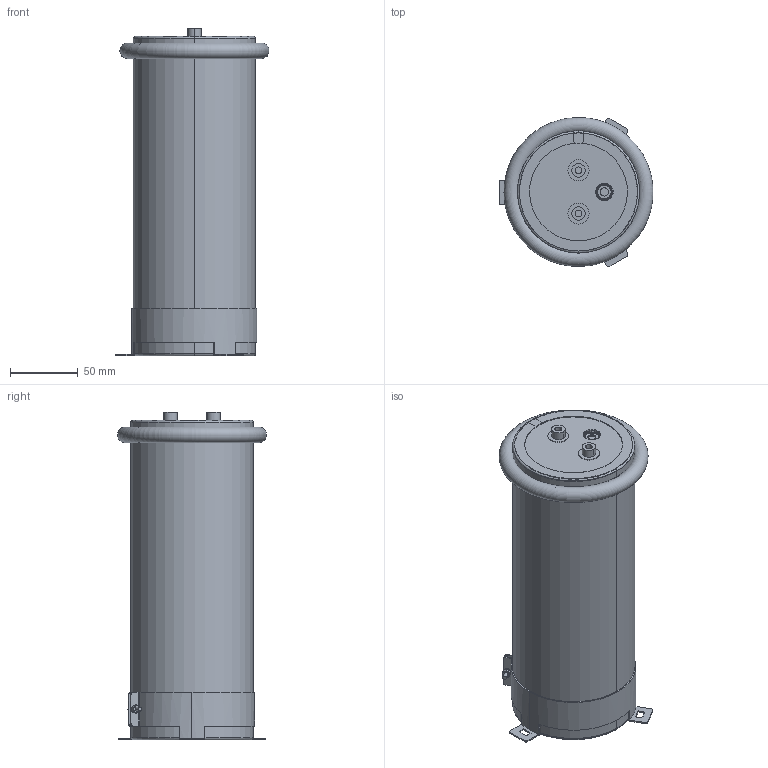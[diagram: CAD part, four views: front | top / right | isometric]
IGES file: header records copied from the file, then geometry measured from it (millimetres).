
Start section: 3D InterOp IGES (v. 2019 1.0.2), Spatial Corp. Copyright (c) 1999-2017.
Global section: file name: 90x235_Screw.igs; native system: Spatial Corp.; preprocessor: 3D InterOp ACIS/IGES; author: Noname; organization: Noname; date: 20220314.174103; units: millimetre
Bounding box: 113.33 x 109.67 x 241 mm (x, y, z)
Volume: 1839693.1 mm3; surface area: 378979 mm2
Topology: 9 solids, 9 shells, 352 faces, 953 edges, 591 vertices
Faces by surface type: plane 112, cylinder 110, torus 90, cone 38, sphere 2
